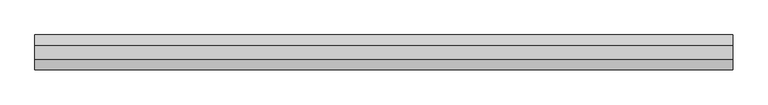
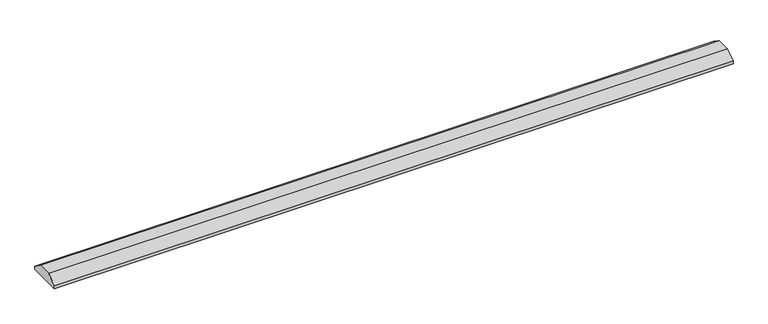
"""IFC4 building model written with IfcOpenShell, lengths in millimetres: furniture geometry, Schutzplanke : Schutzplanke."""

from ifc_helpers import new_model, si_unit, frame, origin, place, context, project, spatial, polyline, outline, extrude, source, transform, mapped, element, save


def furniture_6561b1c4(model_context):
    return source(origin(), model_context, "Body", "SweptSolid", [
        extrude(outline(polyline([(-50.0, 0.0), (-50.0, 10.0), (-20.0, 30.0), (20.0, 30.0), (50.0, 10.0), (50.0, 0.0), (-50.0, 0.0)])), frame((-1000.0, 0.0, 0.0), z_axis=(1.0, 0.0, 0.0), x_axis=(0.0, 1.0, 0.0)), (0.0, 0.0, 1.0), 2000.0),
    ])


if __name__ == "__main__":
    model = new_model("IFC4")
    model_context = context("Model", 3, world=origin())
    ifc_project = project(units=[si_unit("LENGTHUNIT", "METRE", prefix="MILLI")], contexts=[model_context])
    site = spatial("IfcSite", under=ifc_project)
    building = spatial("IfcBuilding", under=site)
    placement = place(None, origin())
    furniture_shape = furniture_6561b1c4(model_context)
    element("IfcFurniture", 1, ObjectType="Schutzplanke : Schutzplanke", at=placement, inside=building, context=model_context, shape_type="MappedRepresentation", body=[
        mapped(furniture_shape, transform((0.0, 0.0, 0.0), x_axis=(1.0, 0.0, 0.0), y_axis=(0.0, 1.0, 0.0), z_axis=(0.0, 0.0, 1.0))),
    ])
    save(model, "model.ifc")
